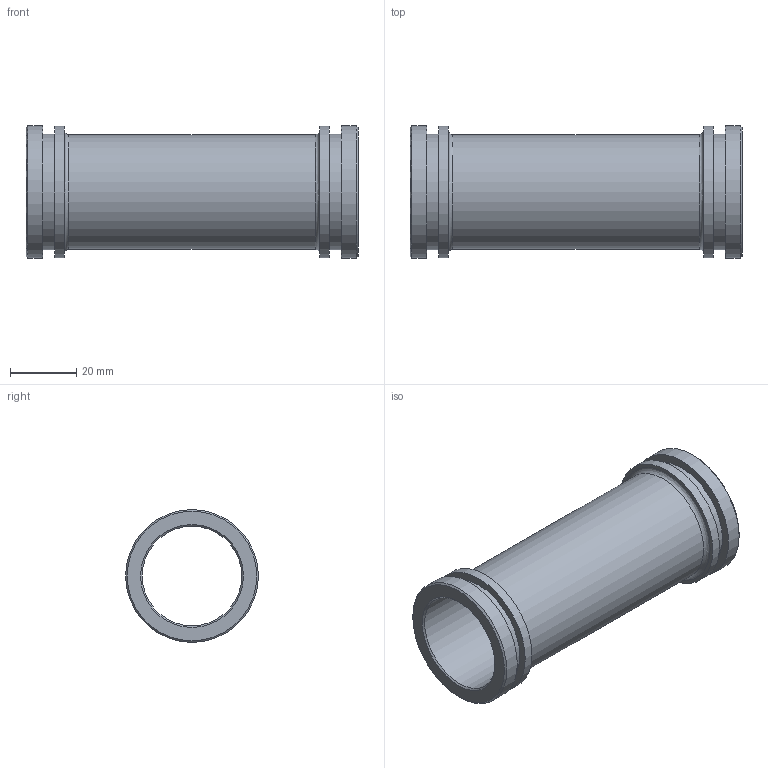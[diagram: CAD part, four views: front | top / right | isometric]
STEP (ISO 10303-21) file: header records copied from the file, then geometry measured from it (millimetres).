
FILE_DESCRIPTION((''),'2;1');
FILE_NAME('N:\CAD\ARCHIV\5350 (-999)\Standardhülsen\5350.030.100\Kundenteil 3D\5350.030.100 Kunden.stp','2009-02-13T14:53:50',('HWalkhoff'),(''),'Autodesk Inventor 2009','Autodesk Inventor 2009','');
FILE_SCHEMA(('AUTOMOTIVE_DESIGN { 1 0 10303 214 1 1 1 1 }'));
Length unit declared in the file: millimetre
Products named in the file (1): Hülse für Kunden
Bounding box: 100 x 40 x 40 mm (x, y, z)
Volume: 27828.4 mm3; surface area: 23124 mm2
Topology: 1 solids, 1 shells, 22 faces, 36 edges, 22 vertices
Faces by surface type: cylinder 8, plane 8, cone 4, bspline 2
Full cylindrical faces by diameter (mm): 30 x1, 34.5 x1, 34.76 x2, 39.5 x2, 40 x2
Entity records: 554 total; most frequent: CARTESIAN_POINT 155, DIRECTION 86, ORIENTED_EDGE 44, EDGE_LOOP 44, AXIS2_PLACEMENT_3D 43, VERTEX_POINT 22, CIRCLE 22, EDGE_CURVE 22
